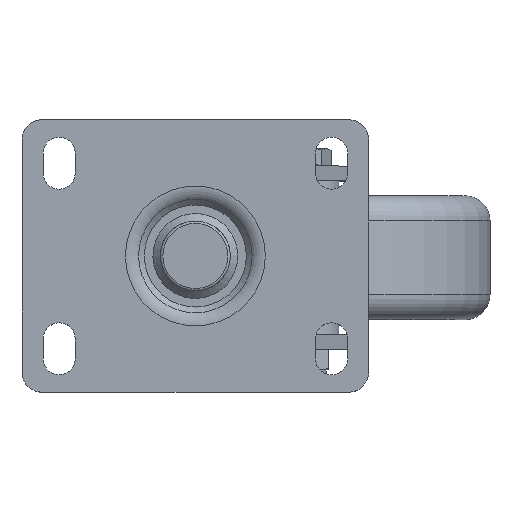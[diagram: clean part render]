
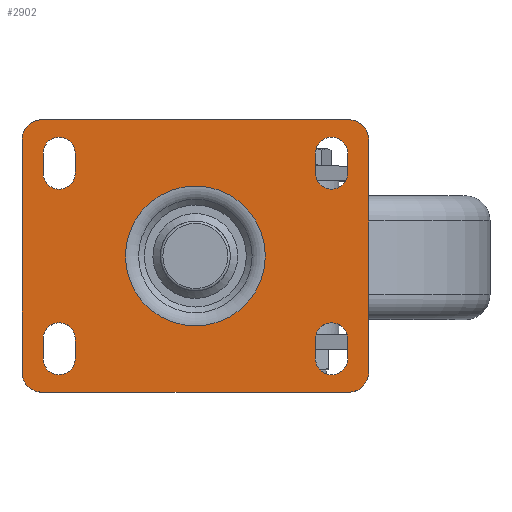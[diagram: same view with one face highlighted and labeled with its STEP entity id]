
A CAD part, top view. The second image highlights one B-rep face of the part: STEP entity #2902.
In plain terms, the highlighted planar face has unit normal (0, 0, 1).
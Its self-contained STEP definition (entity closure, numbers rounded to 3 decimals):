
#55=(
BOUNDED_CURVE()
B_SPLINE_CURVE(3,(#41890,#41891,#41892,#41893,#41894,#41895,#41896,#41897,
#41898,#41899),.UNSPECIFIED.,.F.,.F.)
B_SPLINE_CURVE_WITH_KNOTS((4,3,3,4),(0.,0.094,0.924,
1.),.UNSPECIFIED.)
CURVE()
GEOMETRIC_REPRESENTATION_ITEM()
RATIONAL_B_SPLINE_CURVE((0.586,0.471,0.471,
0.586,0.586,0.586,0.586,
0.471,0.471,0.586))
REPRESENTATION_ITEM('')
);
#58=(
BOUNDED_CURVE()
B_SPLINE_CURVE(3,(#41926,#41927,#41928,#41929,#41930,#41931,#41932,#41933,
#41934,#41935,#41936,#41937,#41938,#41939,#41940,#41941),.UNSPECIFIED.,.F.,
 .F.)
B_SPLINE_CURVE_WITH_KNOTS((4,3,3,3,3,4),(0.,0.342,0.383,
0.746,0.779,1.),.UNSPECIFIED.)
CURVE()
GEOMETRIC_REPRESENTATION_ITEM()
RATIONAL_B_SPLINE_CURVE((0.586,0.586,0.586,
0.586,0.471,0.471,0.586,
0.586,0.586,0.586,0.471,
0.471,0.586,0.586,0.586,
0.586))
REPRESENTATION_ITEM('')
);
#194=FACE_BOUND('',#4734,.T.);
#195=FACE_BOUND('',#4735,.T.);
#196=FACE_BOUND('',#4736,.T.);
#197=FACE_BOUND('',#4737,.T.);
#198=FACE_BOUND('',#4738,.T.);
#199=FACE_BOUND('',#4739,.T.);
#612=PLANE('',#16089);
#1314=LINE('',#42009,#1851);
#1315=LINE('',#42014,#1852);
#1316=LINE('',#42020,#1853);
#1317=LINE('',#42024,#1854);
#1318=LINE('',#42028,#1855);
#1319=LINE('',#42032,#1856);
#1320=LINE('',#42033,#1857);
#1321=LINE('',#42038,#1858);
#1851=VECTOR('',#19232,1.);
#1852=VECTOR('',#19235,1.);
#1853=VECTOR('',#19240,1.);
#1854=VECTOR('',#19243,1.);
#1855=VECTOR('',#19246,1.);
#1856=VECTOR('',#19249,1.);
#1857=VECTOR('',#19250,1.);
#1858=VECTOR('',#19253,1.);
#2902=ADVANCED_FACE('',(#194,#195,#196,#197,#198,#199),#612,.F.);
#4734=EDGE_LOOP('',(#9123,#9124,#9125,#9126));
#4735=EDGE_LOOP('',(#9127,#9128,#9129,#9130));
#4736=EDGE_LOOP('',(#9131,#9132,#9133,#9134));
#4737=EDGE_LOOP('',(#9135,#9136,#9137,#9138));
#4738=EDGE_LOOP('',(#9139));
#4739=EDGE_LOOP('',(#9140,#9141));
#6013=CIRCLE('',#16080,6.5);
#6014=CIRCLE('',#16081,6.5);
#6015=CIRCLE('',#16082,6.5);
#6016=CIRCLE('',#16083,6.5);
#6017=CIRCLE('',#16084,6.5);
#6018=CIRCLE('',#16085,6.5);
#6019=CIRCLE('',#16086,6.5);
#6020=CIRCLE('',#16087,6.5);
#6021=CIRCLE('',#16088,28.243);
#9123=ORIENTED_EDGE('',*,*,#13574,.F.);
#9124=ORIENTED_EDGE('',*,*,#13575,.F.);
#9125=ORIENTED_EDGE('',*,*,#13576,.F.);
#9126=ORIENTED_EDGE('',*,*,#13577,.F.);
#9127=ORIENTED_EDGE('',*,*,#13578,.F.);
#9128=ORIENTED_EDGE('',*,*,#13579,.T.);
#9129=ORIENTED_EDGE('',*,*,#13580,.T.);
#9130=ORIENTED_EDGE('',*,*,#13581,.T.);
#9131=ORIENTED_EDGE('',*,*,#13582,.T.);
#9132=ORIENTED_EDGE('',*,*,#13583,.F.);
#9133=ORIENTED_EDGE('',*,*,#13584,.F.);
#9134=ORIENTED_EDGE('',*,*,#13585,.F.);
#9135=ORIENTED_EDGE('',*,*,#13586,.F.);
#9136=ORIENTED_EDGE('',*,*,#13587,.F.);
#9137=ORIENTED_EDGE('',*,*,#13588,.F.);
#9138=ORIENTED_EDGE('',*,*,#13589,.F.);
#9139=ORIENTED_EDGE('',*,*,#13590,.T.);
#9140=ORIENTED_EDGE('',*,*,#13551,.T.);
#9141=ORIENTED_EDGE('',*,*,#13555,.T.);
#11596=VERTEX_POINT('',#41900);
#11597=VERTEX_POINT('',#41901);
#11617=VERTEX_POINT('',#42010);
#11618=VERTEX_POINT('',#42011);
#11619=VERTEX_POINT('',#42013);
#11620=VERTEX_POINT('',#42015);
#11621=VERTEX_POINT('',#42018);
#11622=VERTEX_POINT('',#42019);
#11623=VERTEX_POINT('',#42021);
#11624=VERTEX_POINT('',#42023);
#11625=VERTEX_POINT('',#42026);
#11626=VERTEX_POINT('',#42027);
#11627=VERTEX_POINT('',#42029);
#11628=VERTEX_POINT('',#42031);
#11629=VERTEX_POINT('',#42034);
#11630=VERTEX_POINT('',#42035);
#11631=VERTEX_POINT('',#42037);
#11632=VERTEX_POINT('',#42039);
#11633=VERTEX_POINT('',#42042);
#13551=EDGE_CURVE('',#11596,#11597,#55,.T.);
#13555=EDGE_CURVE('',#11597,#11596,#58,.T.);
#13574=EDGE_CURVE('',#11617,#11618,#1314,.T.);
#13575=EDGE_CURVE('',#11619,#11617,#6013,.T.);
#13576=EDGE_CURVE('',#11620,#11619,#1315,.T.);
#13577=EDGE_CURVE('',#11618,#11620,#6014,.T.);
#13578=EDGE_CURVE('',#11621,#11622,#6015,.T.);
#13579=EDGE_CURVE('',#11621,#11623,#1316,.T.);
#13580=EDGE_CURVE('',#11623,#11624,#6016,.T.);
#13581=EDGE_CURVE('',#11624,#11622,#1317,.T.);
#13582=EDGE_CURVE('',#11625,#11626,#6017,.T.);
#13583=EDGE_CURVE('',#11627,#11626,#1318,.T.);
#13584=EDGE_CURVE('',#11628,#11627,#6018,.T.);
#13585=EDGE_CURVE('',#11625,#11628,#1319,.T.);
#13586=EDGE_CURVE('',#11629,#11630,#1320,.T.);
#13587=EDGE_CURVE('',#11631,#11629,#6019,.T.);
#13588=EDGE_CURVE('',#11632,#11631,#1321,.T.);
#13589=EDGE_CURVE('',#11630,#11632,#6020,.T.);
#13590=EDGE_CURVE('',#11633,#11633,#6021,.T.);
#16080=AXIS2_PLACEMENT_3D('',#42012,#19233,#19234);
#16081=AXIS2_PLACEMENT_3D('',#42016,#19236,#19237);
#16082=AXIS2_PLACEMENT_3D('',#42017,#19238,#19239);
#16083=AXIS2_PLACEMENT_3D('',#42022,#19241,#19242);
#16084=AXIS2_PLACEMENT_3D('',#42025,#19244,#19245);
#16085=AXIS2_PLACEMENT_3D('',#42030,#19247,#19248);
#16086=AXIS2_PLACEMENT_3D('',#42036,#19251,#19252);
#16087=AXIS2_PLACEMENT_3D('',#42040,#19254,#19255);
#16088=AXIS2_PLACEMENT_3D('',#42041,#19256,#19257);
#16089=AXIS2_PLACEMENT_3D('',#42043,#19258,#19259);
#19232=DIRECTION('',(0.,-1.,0.));
#19233=DIRECTION('',(0.,0.,1.));
#19234=DIRECTION('',(1.,0.,0.));
#19235=DIRECTION('',(0.,1.,0.));
#19236=DIRECTION('',(0.,0.,1.));
#19237=DIRECTION('',(1.,0.,0.));
#19238=DIRECTION('',(0.,0.,1.));
#19239=DIRECTION('',(1.,0.,0.));
#19240=DIRECTION('',(0.,1.,0.));
#19241=DIRECTION('',(0.,0.,-1.));
#19242=DIRECTION('',(1.,0.,0.));
#19243=DIRECTION('',(0.,-1.,0.));
#19244=DIRECTION('',(0.,0.,-1.));
#19245=DIRECTION('',(1.,0.,0.));
#19246=DIRECTION('',(0.,-1.,0.));
#19247=DIRECTION('',(0.,0.,1.));
#19248=DIRECTION('',(1.,0.,0.));
#19249=DIRECTION('',(0.,1.,0.));
#19250=DIRECTION('',(0.,-1.,0.));
#19251=DIRECTION('',(0.,0.,1.));
#19252=DIRECTION('',(1.,0.,0.));
#19253=DIRECTION('',(0.,1.,0.));
#19254=DIRECTION('',(0.,0.,1.));
#19255=DIRECTION('',(1.,0.,0.));
#19256=DIRECTION('',(0.,0.,-1.));
#19257=DIRECTION('',(1.,0.,0.));
#19258=DIRECTION('',(0.,0.,-1.));
#19259=DIRECTION('',(-1.,0.,0.));
#41890=CARTESIAN_POINT('',(-70.,-47.,0.));
#41891=CARTESIAN_POINT('',(-70.,-51.686,0.));
#41892=CARTESIAN_POINT('',(-66.686,-55.,0.));
#41893=CARTESIAN_POINT('',(-62.,-55.,0.));
#41894=CARTESIAN_POINT('',(-20.667,-55.,0.));
#41895=CARTESIAN_POINT('',(20.667,-55.,0.));
#41896=CARTESIAN_POINT('',(62.,-55.,0.));
#41897=CARTESIAN_POINT('',(66.686,-55.,0.));
#41898=CARTESIAN_POINT('',(70.,-51.686,0.));
#41899=CARTESIAN_POINT('',(70.,-47.,0.));
#41900=CARTESIAN_POINT('',(-70.,-47.,0.));
#41901=CARTESIAN_POINT('',(70.,-47.,0.));
#41926=CARTESIAN_POINT('',(70.,-47.,0.));
#41927=CARTESIAN_POINT('',(70.,-15.667,0.));
#41928=CARTESIAN_POINT('',(70.,15.667,0.));
#41929=CARTESIAN_POINT('',(70.,47.,0.));
#41930=CARTESIAN_POINT('',(70.,51.686,0.));
#41931=CARTESIAN_POINT('',(66.686,55.,0.));
#41932=CARTESIAN_POINT('',(62.,55.,0.));
#41933=CARTESIAN_POINT('',(20.667,55.,0.));
#41934=CARTESIAN_POINT('',(-20.667,55.,0.));
#41935=CARTESIAN_POINT('',(-62.,55.,0.));
#41936=CARTESIAN_POINT('',(-66.686,55.,0.));
#41937=CARTESIAN_POINT('',(-70.,51.686,0.));
#41938=CARTESIAN_POINT('',(-70.,47.,0.));
#41939=CARTESIAN_POINT('',(-70.,15.667,0.));
#41940=CARTESIAN_POINT('',(-70.,-15.667,0.));
#41941=CARTESIAN_POINT('',(-70.,-47.,0.));
#42009=CARTESIAN_POINT('',(-61.5,-55.,0.));
#42010=CARTESIAN_POINT('',(-61.5,-33.5,0.));
#42011=CARTESIAN_POINT('',(-61.5,-41.5,0.));
#42012=CARTESIAN_POINT('',(-55.,-33.5,0.));
#42013=CARTESIAN_POINT('',(-48.5,-33.5,0.));
#42014=CARTESIAN_POINT('',(-48.5,-55.,0.));
#42015=CARTESIAN_POINT('',(-48.5,-41.5,0.));
#42016=CARTESIAN_POINT('',(-55.,-41.5,0.));
#42017=CARTESIAN_POINT('',(-55.,33.5,0.));
#42018=CARTESIAN_POINT('',(-61.5,33.5,0.));
#42019=CARTESIAN_POINT('',(-48.5,33.5,0.));
#42020=CARTESIAN_POINT('',(-61.5,-55.,0.));
#42021=CARTESIAN_POINT('',(-61.5,41.5,0.));
#42022=CARTESIAN_POINT('',(-55.,41.5,0.));
#42023=CARTESIAN_POINT('',(-48.5,41.5,0.));
#42024=CARTESIAN_POINT('',(-48.5,-55.,0.));
#42025=CARTESIAN_POINT('',(55.,33.5,0.));
#42026=CARTESIAN_POINT('',(61.5,33.5,0.));
#42027=CARTESIAN_POINT('',(48.5,33.5,0.));
#42028=CARTESIAN_POINT('',(48.5,-55.,0.));
#42029=CARTESIAN_POINT('',(48.5,41.5,0.));
#42030=CARTESIAN_POINT('',(55.,41.5,0.));
#42031=CARTESIAN_POINT('',(61.5,41.5,0.));
#42032=CARTESIAN_POINT('',(61.5,-55.,0.));
#42033=CARTESIAN_POINT('',(48.5,-55.,0.));
#42034=CARTESIAN_POINT('',(48.5,-33.5,0.));
#42035=CARTESIAN_POINT('',(48.5,-41.5,0.));
#42036=CARTESIAN_POINT('',(55.,-33.5,0.));
#42037=CARTESIAN_POINT('',(61.5,-33.5,0.));
#42038=CARTESIAN_POINT('',(61.5,-55.,0.));
#42039=CARTESIAN_POINT('',(61.5,-41.5,0.));
#42040=CARTESIAN_POINT('',(55.,-41.5,0.));
#42041=CARTESIAN_POINT('',(0.,0.,0.));
#42042=CARTESIAN_POINT('',(28.243,0.,0.));
#42043=CARTESIAN_POINT('',(-1.373,-55.,0.));
